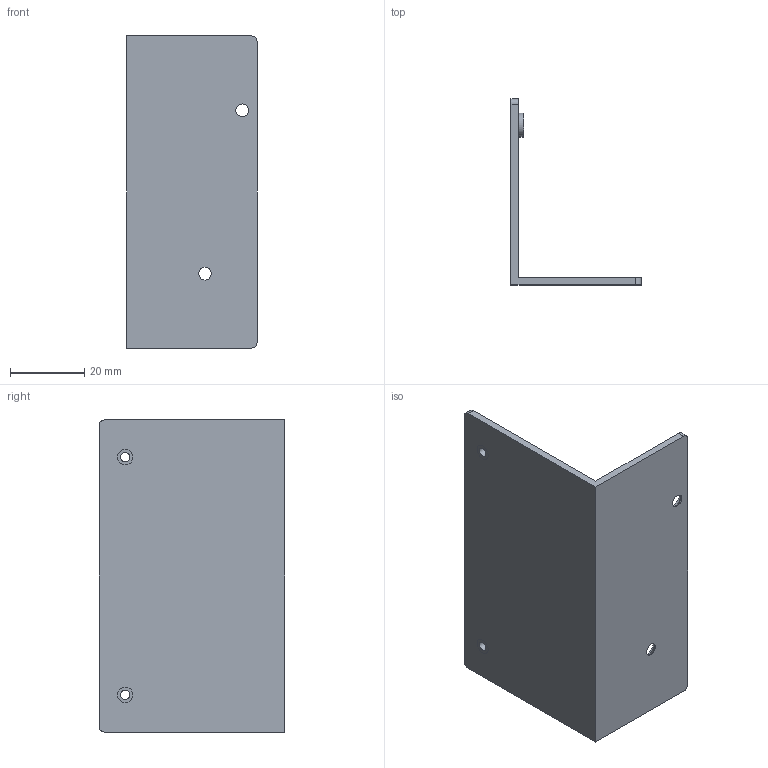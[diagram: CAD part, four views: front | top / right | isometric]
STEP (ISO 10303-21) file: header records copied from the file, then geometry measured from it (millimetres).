
FILE_DESCRIPTION(/* description */ ('BRACKET FOR BLIND PLATE 3U','CAx-IF Rec.Pracs.---Representation and Presentation of Product Manufacturing Information (PMI)---4.0---2014-10-13'),/* implementation_level */ '2;1');
FILE_NAME(/* name */ 'E:\CAMTEC_2020_Pack and Go\Subrack_3U\2051065002CA.stp',/* time_stamp */ '2020-09-21T18:09:01+02:00',/* author */ ('rryba'),/* organization */ (''),/* preprocessor_version */ 'ST-DEVELOPER v18.1',/* originating_system */ 'Autodesk Inventor 2021',/* authorisation */ '');
FILE_SCHEMA (('AP242_MANAGED_MODEL_BASED_3D_ENGINEERING_MIM_LF { 1 0 10303 442 1 1 4 }'));
Length unit declared in the file: millimetre
Products named in the file (1): 2051065002CA
Bounding box: 35 x 50 x 84 mm (x, y, z)
Volume: 13924.7 mm3; surface area: 14871.5 mm2
Topology: 3 solids, 3 shells, 34 faces, 96 edges, 89 vertices
Faces by surface type: cylinder 16, plane 14, cone 2, torus 2
Full cylindrical faces by diameter (mm): 2.459 x2, 3.4 x2, 4.2 x4, 5.9 x2, 6.3 x2
Entity records: 1159 total; most frequent: CARTESIAN_POINT 198, DIRECTION 188, ORIENTED_EDGE 148, AXIS2_PLACEMENT_3D 76, EDGE_CURVE 74, EDGE_LOOP 48, VERTEX_POINT 48, STYLED_ITEM 45
